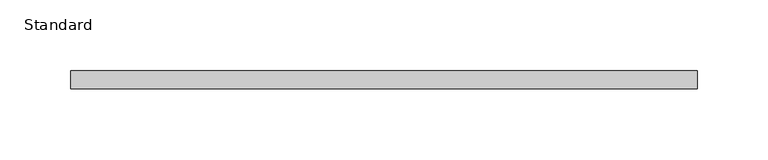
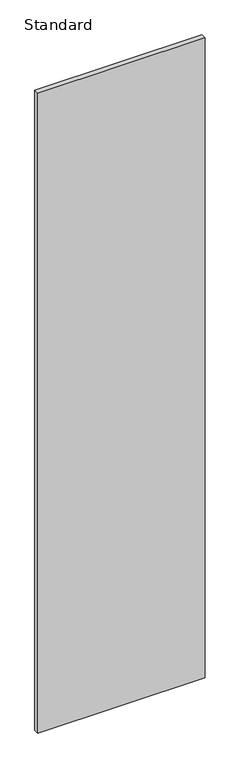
"""IFC4 building model written with IfcOpenShell, lengths in millimetres: furniture geometry, X_Locker-Duracube-Door : Standard."""

from ifc_helpers import new_model, si_unit, frame, origin, place, context, project, spatial, polyline, outline, extrude, source, transform, mapped, element, save


def standard_a6131b2d(model_context):
    return source(origin(), model_context, "Body", "SweptSolid", [
        extrude(outline(polyline([(266.7003264, -13.0), (-177.2996736, -13.0), (-177.2996736, 0.0), (266.7003264, 0.0), (266.7003264, -13.0)])), frame((0.0, 0.0, 3.0), z_axis=(0.0, 0.0, 1.0), x_axis=(1.0, 0.0, 0.0)), (0.0, 0.0, 1.0), 1794.0),
    ])


if __name__ == "__main__":
    model = new_model("IFC4")
    model_context = context("Model", 3, world=origin())
    ifc_project = project(units=[si_unit("LENGTHUNIT", "METRE", prefix="MILLI")], contexts=[model_context])
    site = spatial("IfcSite", under=ifc_project)
    building = spatial("IfcBuilding", under=site)
    placement = place(None, origin())
    standard_shape = standard_a6131b2d(model_context)
    element("IfcFurniture", 1, ObjectType="X_Locker-Duracube-Door : Standard", at=placement, inside=building, context=model_context, shape_type="MappedRepresentation", body=[
        mapped(standard_shape, transform((0.0, 0.0, 0.0), x_axis=(1.0, 0.0, 0.0), y_axis=(0.0, 1.0, 0.0), z_axis=(0.0, 0.0, 1.0))),
    ])
    save(model, "model.ifc")
